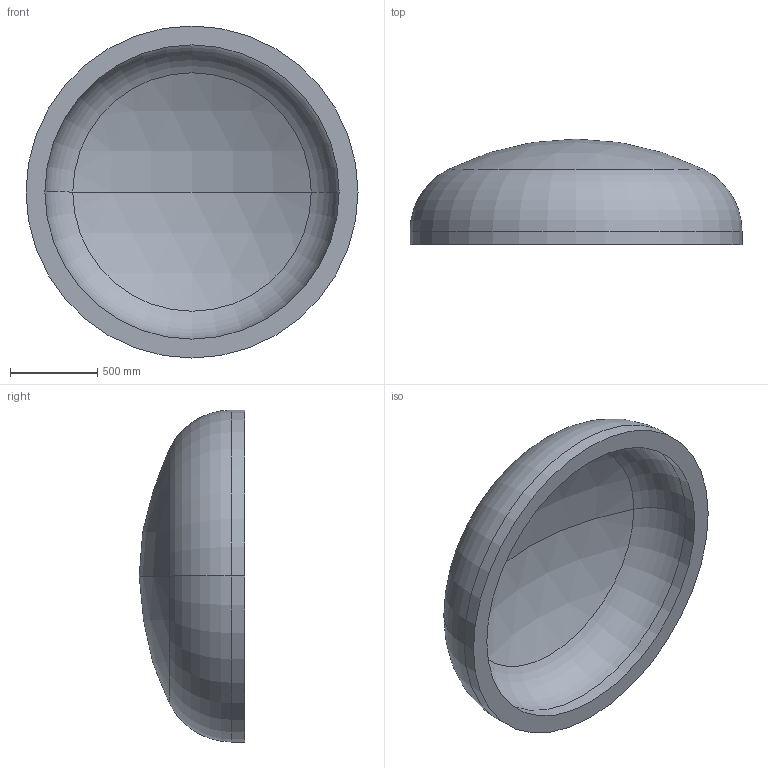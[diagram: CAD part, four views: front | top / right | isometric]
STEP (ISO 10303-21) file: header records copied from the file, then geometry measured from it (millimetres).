
FILE_DESCRIPTION (( 'STEP AP203' ), '1' );
FILE_NAME ('DIN 28013 Korbbogenform_-_Boden DIN 28013 - 1900 x 75 - I - s=108.step', '2016-07-01T13:28:06', ( '' ), ( '' ), 'SwSTEP 2.0', 'SolidWorks 2013', '' );
FILE_SCHEMA (( 'CONFIG_CONTROL_DESIGN' ));
Length unit declared in the file: millimetre
Products named in the file (1): DIN 28013 Korbbogenform_-_Boden DIN 28013 - 1900 x 75 - I - s=108
Bounding box: 1900 x 603.82 x 1900 mm (x, y, z)
Volume: 439262771 mm3; surface area: 8766933.9 mm2
Topology: 1 solids, 1 shells, 13 faces, 24 edges, 14 vertices
Faces by surface type: torus 4, cylinder 4, sphere 4, plane 1
Entity records: 407 total; most frequent: DIRECTION 72, CARTESIAN_POINT 52, ORIENTED_EDGE 48, AXIS2_PLACEMENT_3D 34, EDGE_CURVE 24, CIRCLE 20, VERTEX_POINT 14, EDGE_LOOP 14
